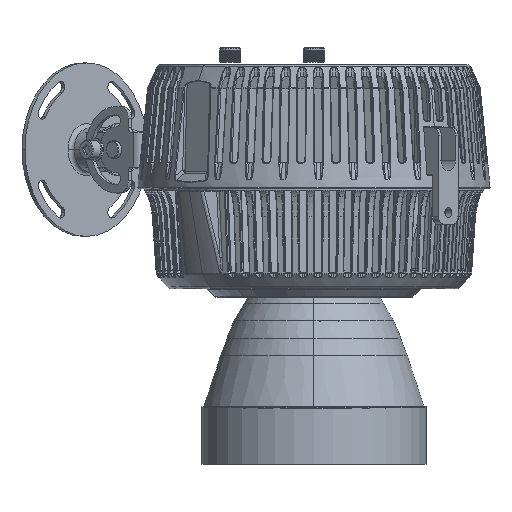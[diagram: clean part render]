
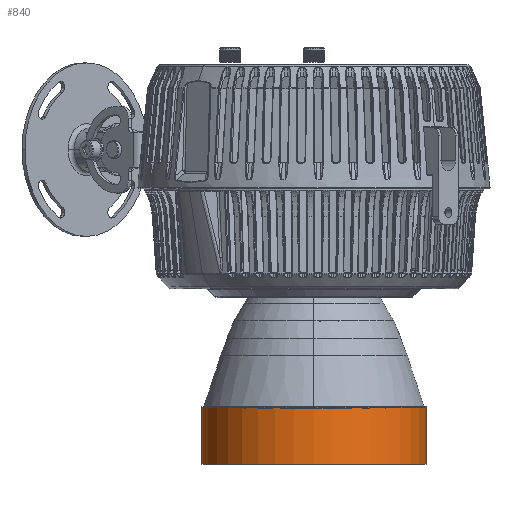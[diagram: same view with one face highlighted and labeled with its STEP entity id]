
A CAD part, front view. The second image highlights one B-rep face of the part: STEP entity #840.
In plain terms, the highlighted cylindrical face has radius 77.7 mm (diameter 155.4 mm), a partial arc.
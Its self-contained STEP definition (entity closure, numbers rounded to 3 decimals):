
#840 = ADVANCED_FACE ( 'NONE', ( #189933 ), #73326, .T. ) ;
#10370 = CARTESIAN_POINT ( 'NONE',  ( 0., 123., 0. ) ) ;
#19461 = CARTESIAN_POINT ( 'NONE',  ( 0., 84.2, 77.7 ) ) ;
#22542 = LINE ( 'NONE', #19461, #41681 ) ;
#26608 = EDGE_CURVE ( 'NONE', #267071, #69239, #22542, .T. ) ;
#32185 = LINE ( 'NONE', #270199, #248375 ) ;
#35197 = VERTEX_POINT ( 'NONE', #258413 ) ;
#41681 = VECTOR ( 'NONE', #115543, 1000. ) ;
#48098 = DIRECTION ( 'NONE',  ( 0., -1., 0. ) ) ;
#48560 = EDGE_CURVE ( 'NONE', #150845, #267071, #233654, .T. ) ;
#52603 = AXIS2_PLACEMENT_3D ( 'NONE', #10370, #197971, #57751 ) ;
#57751 = DIRECTION ( 'NONE',  ( 0., 0., 1. ) ) ;
#69239 = VERTEX_POINT ( 'NONE', #273698 ) ;
#73326 = CYLINDRICAL_SURFACE ( 'NONE', #178448, 77.7 ) ;
#73698 = ORIENTED_EDGE ( 'NONE', *, *, #48560, .F. ) ;
#85492 = DIRECTION ( 'NONE',  ( 0., 0., 1. ) ) ;
#88334 = AXIS2_PLACEMENT_3D ( 'NONE', #184621, #302820, #85492 ) ;
#115543 = DIRECTION ( 'NONE',  ( 0., -1., 0. ) ) ;
#122170 = ORIENTED_EDGE ( 'NONE', *, *, #26608, .F. ) ;
#123577 = DIRECTION ( 'NONE',  ( 0., 0., -1. ) ) ;
#135952 = ORIENTED_EDGE ( 'NONE', *, *, #195888, .T. ) ;
#150845 = VERTEX_POINT ( 'NONE', #245230 ) ;
#152077 = EDGE_LOOP ( 'NONE', ( #122170, #73698, #216609, #135952 ) ) ;
#178448 = AXIS2_PLACEMENT_3D ( 'NONE', #263992, #48098, #123577 ) ;
#181028 = EDGE_CURVE ( 'NONE', #150845, #35197, #32185, .T. ) ;
#184621 = CARTESIAN_POINT ( 'NONE',  ( 0., 83.3, 0. ) ) ;
#189933 = FACE_OUTER_BOUND ( 'NONE', #152077, .T. ) ;
#191559 = CARTESIAN_POINT ( 'NONE',  ( 0., 123., 77.7 ) ) ;
#195888 = EDGE_CURVE ( 'NONE', #35197, #69239, #209061, .T. ) ;
#197971 = DIRECTION ( 'NONE',  ( 0., 1., 0. ) ) ;
#209061 = CIRCLE ( 'NONE', #88334, 77.7 ) ;
#216609 = ORIENTED_EDGE ( 'NONE', *, *, #181028, .T. ) ;
#233654 = CIRCLE ( 'NONE', #52603, 77.7 ) ;
#245230 = CARTESIAN_POINT ( 'NONE',  ( 0., 123., -77.7 ) ) ;
#248045 = DIRECTION ( 'NONE',  ( 0., -1., 0. ) ) ;
#248375 = VECTOR ( 'NONE', #248045, 1000. ) ;
#258413 = CARTESIAN_POINT ( 'NONE',  ( 0., 83.3, -77.7 ) ) ;
#263992 = CARTESIAN_POINT ( 'NONE',  ( 0., 84.2, 0. ) ) ;
#267071 = VERTEX_POINT ( 'NONE', #191559 ) ;
#270199 = CARTESIAN_POINT ( 'NONE',  ( 0., 84.2, -77.7 ) ) ;
#273698 = CARTESIAN_POINT ( 'NONE',  ( 0., 83.3, 77.7 ) ) ;
#302820 = DIRECTION ( 'NONE',  ( 0., 1., 0. ) ) ;
